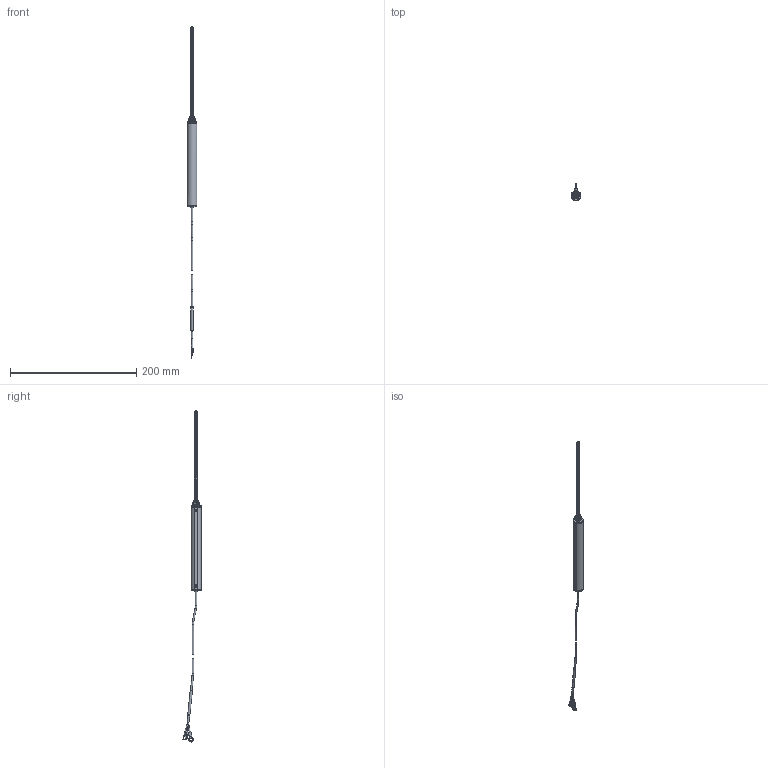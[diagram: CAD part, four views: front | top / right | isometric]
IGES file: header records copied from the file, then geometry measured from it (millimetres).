
Global section: file name: LPPS-MSL-100; native system: Autodesk Inventor 2020; preprocessor: unknown; author: J. Nielson; date: 20190829.153144; units: inch
Bounding box: 15.1 x 28.77 x 525.8 mm (x, y, z)
Volume: 10174 mm3; surface area: 20314.5 mm2
Topology: 24 solids, 24 shells, 341 faces, 861 edges, 581 vertices
Faces by surface type: bspline 341
